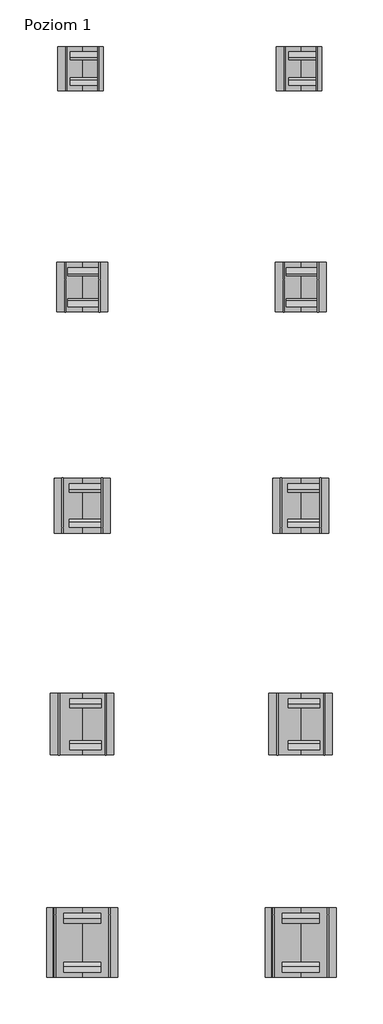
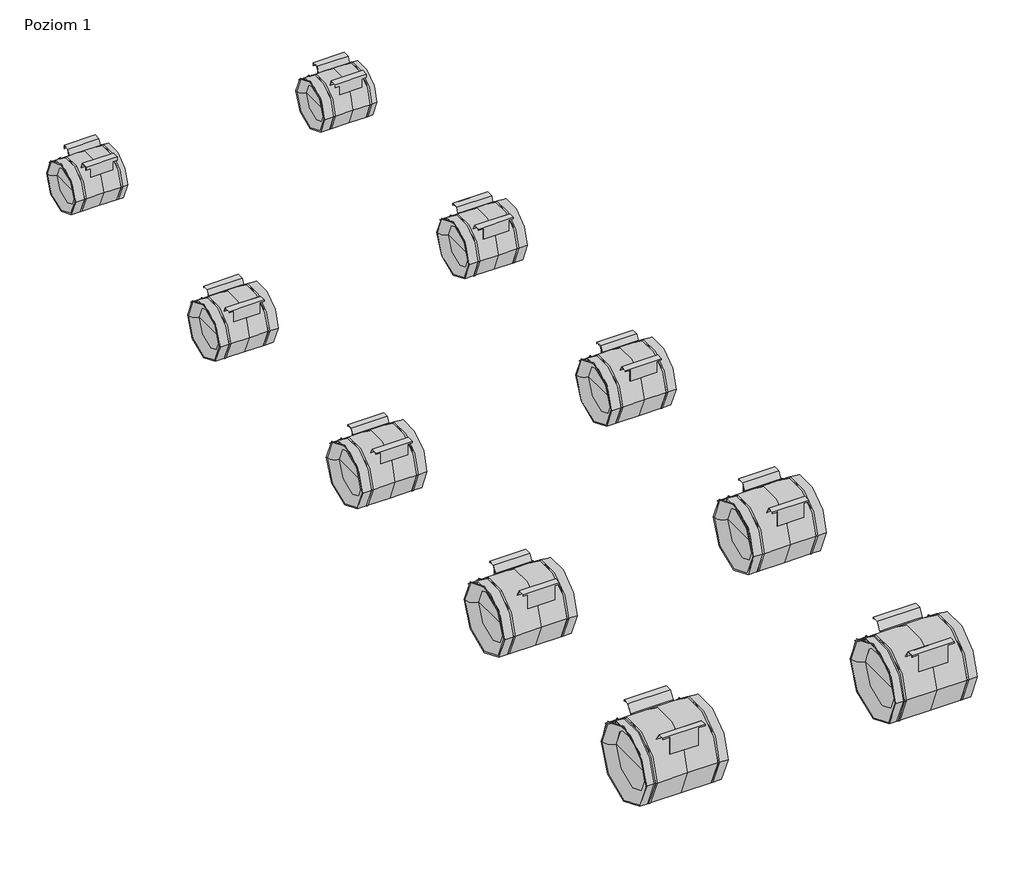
# One storey, incomplete: 10 unitary equipment elements.
"""IFC4 building model written with IfcOpenShell, lengths in millimetres."""

from ifc_helpers import new_model, si_unit, origin, place, context, project, spatial, transform, mapped, element, save
from components import unitary_equipment_ea2b1bd6, unitary_equipment_9b91302f, unitary_equipment_969b22ba, unitary_equipment_e1b1fb89, unitary_equipment_7df76545

model = new_model("IFC4")

# Units and contexts
model_context = context("Model", 3, world=origin())
ifc_project = project(units=[si_unit("LENGTHUNIT", "METRE", prefix="MILLI")], contexts=[model_context])

# Site, building, storey
site = spatial("IfcSite", under=ifc_project)
building = spatial("IfcBuilding", under=site)
storey = spatial("IfcBuildingStorey", under=building, Name="Poziom 1", Elevation=0.0)

# Unitary equipment
placement = place(None, origin())
unitary_equipment_shape = unitary_equipment_ea2b1bd6(model_context)
element("IfcUnitaryEquipment", 1, ObjectType="VE-Wentylator-ParaForma-Harmann-JETTEC_EC-Nawiewny : 400/8100EC", at=placement, inside=storey, context=model_context, shape_type="MappedRepresentation", body=[
    mapped(unitary_equipment_shape, transform((6582.5, 1000.0, 0.0), x_axis=(1.0, 0.0, 0.0), y_axis=(0.0, 1.0, 0.0), z_axis=(0.0, 0.0, 1.0))),
])
unitary_equipment_2_shape = unitary_equipment_9b91302f(model_context)
element("IfcUnitaryEquipment", 2, ObjectType="VE-Wentylator-ParaForma-Harmann-JETTEC_EC-Nawiewny : 450/9300EC", at=placement, inside=storey, context=model_context, shape_type="MappedRepresentation", body=[
    mapped(unitary_equipment_2_shape, transform((6582.5, -1000.0, 0.0), x_axis=(1.0, 0.0, 0.0), y_axis=(0.0, 1.0, 0.0), z_axis=(0.0, 0.0, 1.0))),
])
unitary_equipment_3_shape = unitary_equipment_969b22ba(model_context)
element("IfcUnitaryEquipment", 3, ObjectType="VE-Wentylator-ParaForma-Harmann-JETTEC_EC-Nawiewny : 500/12200EC", at=placement, inside=storey, context=model_context, shape_type="MappedRepresentation", body=[
    mapped(unitary_equipment_3_shape, transform((6582.5, -3000.0, 0.0), x_axis=(1.0, 0.0, 0.0), y_axis=(0.0, 1.0, 0.0), z_axis=(0.0, 0.0, 1.0))),
])
unitary_equipment_4_shape = unitary_equipment_e1b1fb89(model_context)
element("IfcUnitaryEquipment", 4, ObjectType="VE-Wentylator-ParaForma-Harmann-JETTEC_EC-Nawiewny : 560/13600EC", at=placement, inside=storey, context=model_context, shape_type="MappedRepresentation", body=[
    mapped(unitary_equipment_4_shape, transform((6582.5, -5000.0, 0.0), x_axis=(1.0, 0.0, 0.0), y_axis=(0.0, 1.0, 0.0), z_axis=(0.0, 0.0, 1.0))),
])
unitary_equipment_5_shape = unitary_equipment_7df76545(model_context)
element("IfcUnitaryEquipment", 5, ObjectType="VE-Wentylator-ParaForma-Harmann-JETTEC_EC-Nawiewny : 630/15200EC", at=placement, inside=storey, context=model_context, shape_type="MappedRepresentation", body=[
    mapped(unitary_equipment_5_shape, transform((6582.5, -7000.0, 0.0), x_axis=(1.0, 0.0, 0.0), y_axis=(0.0, 1.0, 0.0), z_axis=(0.0, 0.0, 1.0))),
])
element("IfcUnitaryEquipment", 6, ObjectType="VE-Wentylator-ParaForma-Harmann-JETTEC_EC-Wywiewny : 400/8100EC", at=placement, inside=storey, context=model_context, shape_type="MappedRepresentation", body=[
    mapped(unitary_equipment_shape, transform((4582.5, 1000.0, 0.0), x_axis=(1.0, 0.0, 0.0), y_axis=(0.0, 1.0, 0.0), z_axis=(0.0, 0.0, 1.0))),
])
element("IfcUnitaryEquipment", 7, ObjectType="VE-Wentylator-ParaForma-Harmann-JETTEC_EC-Wywiewny : 450/9300EC", at=placement, inside=storey, context=model_context, shape_type="MappedRepresentation", body=[
    mapped(unitary_equipment_2_shape, transform((4582.5, -1000.0, 0.0), x_axis=(1.0, 0.0, 0.0), y_axis=(0.0, 1.0, 0.0), z_axis=(0.0, 0.0, 1.0))),
])
element("IfcUnitaryEquipment", 8, ObjectType="VE-Wentylator-ParaForma-Harmann-JETTEC_EC-Wywiewny : 500/12200EC", at=placement, inside=storey, context=model_context, shape_type="MappedRepresentation", body=[
    mapped(unitary_equipment_3_shape, transform((4582.5, -3000.0, 0.0), x_axis=(1.0, 0.0, 0.0), y_axis=(0.0, 1.0, 0.0), z_axis=(0.0, 0.0, 1.0))),
])
element("IfcUnitaryEquipment", 9, ObjectType="VE-Wentylator-ParaForma-Harmann-JETTEC_EC-Wywiewny : 560/13600EC", at=placement, inside=storey, context=model_context, shape_type="MappedRepresentation", body=[
    mapped(unitary_equipment_4_shape, transform((4582.5, -5000.0, 0.0), x_axis=(1.0, 0.0, 0.0), y_axis=(0.0, 1.0, 0.0), z_axis=(0.0, 0.0, 1.0))),
])
element("IfcUnitaryEquipment", 10, ObjectType="VE-Wentylator-ParaForma-Harmann-JETTEC_EC-Wywiewny : 630/15200EC", at=placement, inside=storey, context=model_context, shape_type="MappedRepresentation", body=[
    mapped(unitary_equipment_5_shape, transform((4582.5, -7000.0, 0.0), x_axis=(1.0, 0.0, 0.0), y_axis=(0.0, 1.0, 0.0), z_axis=(0.0, 0.0, 1.0))),
])

save(model, "model.ifc")
